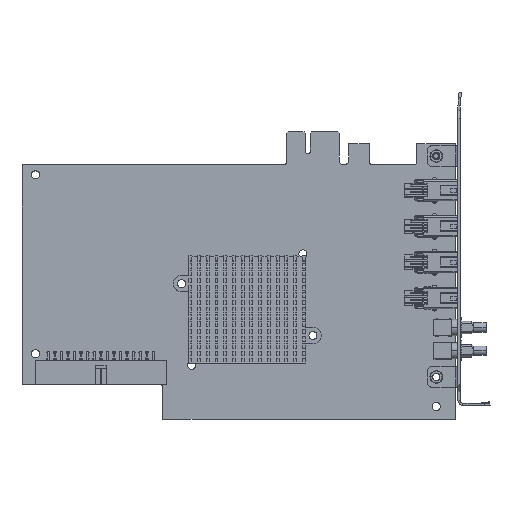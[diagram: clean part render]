
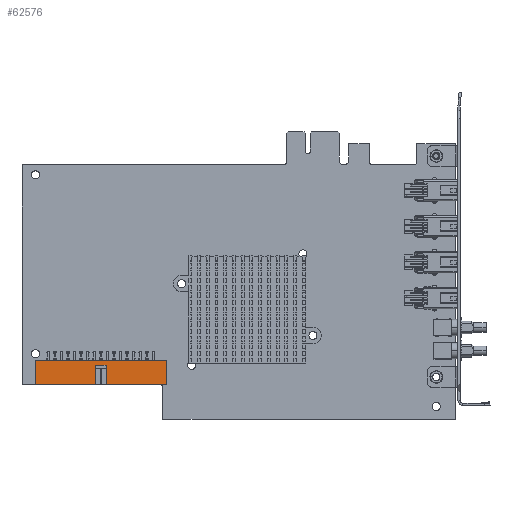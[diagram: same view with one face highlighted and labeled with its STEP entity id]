
A CAD part, top view. The second image highlights one B-rep face of the part: STEP entity #62576.
In plain terms, the highlighted planar face has unit normal (0, 0, 1).
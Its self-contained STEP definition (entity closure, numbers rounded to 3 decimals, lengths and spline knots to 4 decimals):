
#1494=DIRECTION('',(1.,0.,0.));
#1495=VECTOR('',#1494,0.92);
#1496=CARTESIAN_POINT('',(-6.4,-3.669,0.4025));
#1497=LINE('',#1496,#1495);
#1526=DIRECTION('',(1.,0.,0.));
#1527=VECTOR('',#1526,0.92);
#1528=CARTESIAN_POINT('',(-5.32,-3.669,0.4025));
#1529=LINE('',#1528,#1527);
#2893=DIRECTION('',(0.,1.,0.));
#2894=VECTOR('',#2893,0.37);
#2895=CARTESIAN_POINT('',(-4.4,-3.669,0.4025));
#2896=LINE('',#2895,#2894);
#2897=DIRECTION('',(0.,1.,0.));
#2898=VECTOR('',#2897,0.29);
#2899=CARTESIAN_POINT('',(-5.32,-3.669,0.4025));
#2900=LINE('',#2899,#2898);
#2901=DIRECTION('',(-1.,0.,0.));
#2902=VECTOR('',#2901,0.16);
#2903=CARTESIAN_POINT('',(-5.32,-3.379,0.4025));
#2904=LINE('',#2903,#2902);
#2905=DIRECTION('',(0.,1.,0.));
#2906=VECTOR('',#2905,0.29);
#2907=CARTESIAN_POINT('',(-5.48,-3.669,0.4025));
#2908=LINE('',#2907,#2906);
#2909=DIRECTION('',(0.,1.,0.));
#2910=VECTOR('',#2909,0.37);
#2911=CARTESIAN_POINT('',(-6.4,-3.669,0.4025));
#2912=LINE('',#2911,#2910);
#4617=DIRECTION('',(1.,0.,0.));
#4618=VECTOR('',#4617,2.);
#4619=CARTESIAN_POINT('',(-6.4,-3.299,0.4025));
#4620=LINE('',#4619,#4618);
#49439=CARTESIAN_POINT('',(-6.4,-3.299,0.4025));
#49440=CARTESIAN_POINT('',(-4.4,-3.299,0.4025));
#49441=VERTEX_POINT('',#49439);
#49442=VERTEX_POINT('',#49440);
#49443=CARTESIAN_POINT('',(-6.4,-3.669,0.4025));
#49444=VERTEX_POINT('',#49443);
#49445=CARTESIAN_POINT('',(-4.4,-3.669,0.4025));
#49446=VERTEX_POINT('',#49445);
#50348=CARTESIAN_POINT('',(-5.32,-3.669,0.4025));
#50350=VERTEX_POINT('',#50348);
#50352=CARTESIAN_POINT('',(-5.48,-3.669,0.4025));
#50354=VERTEX_POINT('',#50352);
#50355=CARTESIAN_POINT('',(-5.32,-3.379,0.4025));
#50356=VERTEX_POINT('',#50355);
#50357=CARTESIAN_POINT('',(-5.48,-3.379,0.4025));
#50358=VERTEX_POINT('',#50357);
#62556=CARTESIAN_POINT('',(-6.4,-3.669,0.4025));
#62557=DIRECTION('',(0.,0.,1.));
#62558=DIRECTION('',(1.,0.,0.));
#62559=AXIS2_PLACEMENT_3D('',#62556,#62557,#62558);
#62560=PLANE('',#62559);
#62562=ORIENTED_EDGE('',*,*,#62561,.T.);
#62564=ORIENTED_EDGE('',*,*,#62563,.T.);
#62566=ORIENTED_EDGE('',*,*,#62565,.F.);
#62567=ORIENTED_EDGE('',*,*,#61790,.F.);
#62569=ORIENTED_EDGE('',*,*,#62568,.T.);
#62571=ORIENTED_EDGE('',*,*,#62570,.T.);
#62572=ORIENTED_EDGE('',*,*,#62549,.F.);
#62573=ORIENTED_EDGE('',*,*,#61806,.F.);
#62574=EDGE_LOOP('',(#62562,#62564,#62566,#62567,#62569,#62571,#62572,#62573));
#62575=FACE_OUTER_BOUND('',#62574,.F.);
#62576=ADVANCED_FACE('',(#62575),#62560,.T.);
#61790=EDGE_CURVE('',#49444,#50354,#1497,.T.);
#61806=EDGE_CURVE('',#50350,#49446,#1529,.T.);
#62549=EDGE_CURVE('',#49446,#49442,#2896,.T.);
#62561=EDGE_CURVE('',#50350,#50356,#2900,.T.);
#62563=EDGE_CURVE('',#50356,#50358,#2904,.T.);
#62565=EDGE_CURVE('',#50354,#50358,#2908,.T.);
#62568=EDGE_CURVE('',#49444,#49441,#2912,.T.);
#62570=EDGE_CURVE('',#49441,#49442,#4620,.T.);
